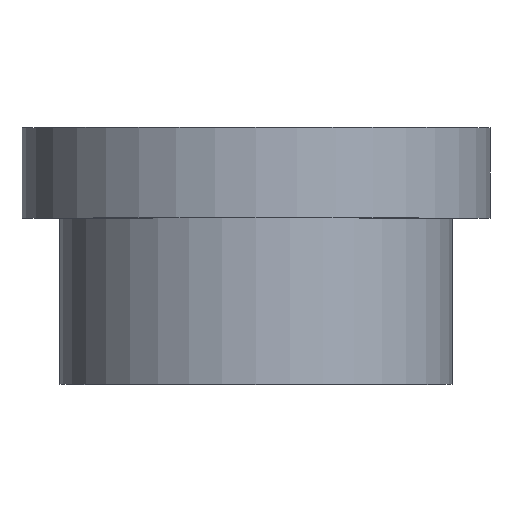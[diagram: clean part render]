
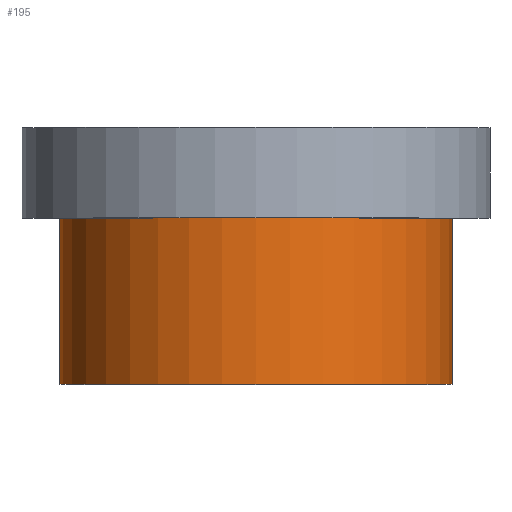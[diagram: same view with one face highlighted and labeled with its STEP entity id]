
A CAD part, top view. The second image highlights one B-rep face of the part: STEP entity #195.
In plain terms, the highlighted cylindrical face has radius 13 mm (diameter 26 mm), a full revolution.
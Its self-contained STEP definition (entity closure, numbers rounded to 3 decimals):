
#32=ORIENTED_EDGE('',*,*,#50,.T.);
#33=ORIENTED_EDGE('',*,*,#49,.F.);
#49=EDGE_CURVE('',#59,#59,#69,.T.);
#50=EDGE_CURVE('',#60,#60,#70,.T.);
#59=VERTEX_POINT('',#280);
#60=VERTEX_POINT('',#283);
#69=CIRCLE('',#213,13.);
#70=CIRCLE('',#215,13.);
#82=EDGE_LOOP('',(#32));
#83=EDGE_LOOP('',(#33));
#102=FACE_BOUND('',#82,.T.);
#103=FACE_BOUND('',#83,.T.);
#117=CYLINDRICAL_SURFACE('',#214,13.);
#195=ADVANCED_FACE('',(#102,#103),#117,.T.);
#213=AXIS2_PLACEMENT_3D('',#279,#241,#242);
#214=AXIS2_PLACEMENT_3D('',#281,#243,#244);
#215=AXIS2_PLACEMENT_3D('',#282,#245,#246);
#241=DIRECTION('',(0.,-1.,0.));
#242=DIRECTION('',(0.,0.,-1.));
#243=DIRECTION('',(0.,-1.,0.));
#244=DIRECTION('',(0.,0.,-1.));
#245=DIRECTION('',(0.,-1.,0.));
#246=DIRECTION('',(0.,0.,-1.));
#279=CARTESIAN_POINT('',(0.,0.,0.));
#280=CARTESIAN_POINT('',(0.,0.,-13.));
#281=CARTESIAN_POINT('',(0.,0.,0.));
#282=CARTESIAN_POINT('',(0.,11.,0.));
#283=CARTESIAN_POINT('',(0.,11.,-13.));
